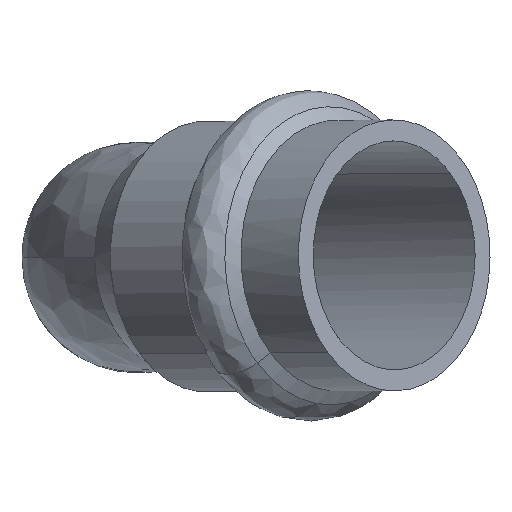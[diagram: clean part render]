
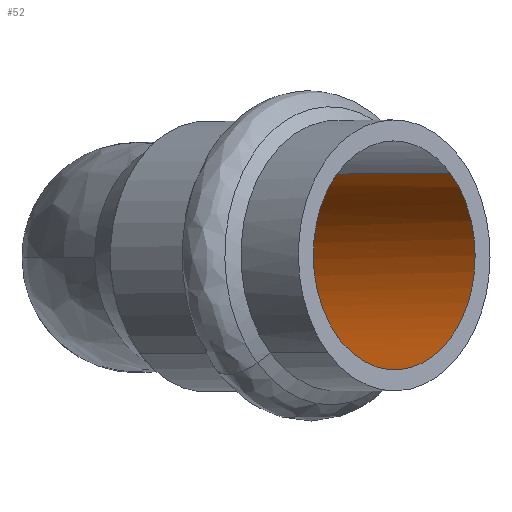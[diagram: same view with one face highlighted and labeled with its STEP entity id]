
A CAD part, top view. The second image highlights one B-rep face of the part: STEP entity #52.
In plain terms, the highlighted cylindrical face has radius 9.505 mm (diameter 19.01 mm), a partial arc.
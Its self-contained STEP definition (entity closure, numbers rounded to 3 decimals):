
#52=ADVANCED_FACE('',(#121),#122,.F.);
#121=FACE_OUTER_BOUND('',#292,.T.);
#122=CYLINDRICAL_SURFACE('',#293,9.505);
#292=EDGE_LOOP('',(#510,#511,#512,#513));
#293=AXIS2_PLACEMENT_3D('',#514,#515,#516);
#510=ORIENTED_EDGE('',*,*,#724,.F.);
#511=ORIENTED_EDGE('',*,*,#725,.F.);
#512=ORIENTED_EDGE('',*,*,#726,.F.);
#513=ORIENTED_EDGE('',*,*,#727,.F.);
#514=CARTESIAN_POINT('',(8.909,0.046,8.91));
#515=DIRECTION('',(-0.707,-0.004,-0.707));
#516=DIRECTION('',(0.49,0.718,-0.494));
#724=EDGE_CURVE('',#821,#822,#823,.T.);
#725=EDGE_CURVE('',#824,#821,#825,.T.);
#726=EDGE_CURVE('',#826,#824,#827,.T.);
#727=EDGE_CURVE('',#822,#826,#828,.T.);
#821=VERTEX_POINT('',#1011);
#822=VERTEX_POINT('',#1012);
#823=LINE('',#1013,#1014);
#824=VERTEX_POINT('',#1015);
#825=(B_SPLINE_CURVE(2,(#1017,#1018,#1019,#1020,#1021),.UNSPECIFIED.,.F.,.F.)B_SPLINE_CURVE_WITH_KNOTS((3,2,3),(-1.571,0.,1.571),.UNSPECIFIED.)RATIONAL_B_SPLINE_CURVE((1.0,0.707,1.0,0.707,1.0))BOUNDED_CURVE()REPRESENTATION_ITEM('')GEOMETRIC_REPRESENTATION_ITEM()CURVE());
#826=VERTEX_POINT('',#1028);
#827=LINE('',#1029,#1030);
#828=(B_SPLINE_CURVE(2,(#1032,#1033,#1034,#1035,#1036),.UNSPECIFIED.,.F.,.F.)B_SPLINE_CURVE_WITH_KNOTS((3,2,3),(-1.571,0.,1.571),.UNSPECIFIED.)RATIONAL_B_SPLINE_CURVE((1.0,0.707,1.0,0.707,1.0))BOUNDED_CURVE()REPRESENTATION_ITEM('')GEOMETRIC_REPRESENTATION_ITEM()CURVE());
#1011=CARTESIAN_POINT('',(10.458,6.856,1.103));
#1012=CARTESIAN_POINT('',(26.014,6.936,16.66));
#1013=CARTESIAN_POINT('',(13.569,6.872,4.214));
#1014=VECTOR('',#1519,1.0);
#1015=CARTESIAN_POINT('',(1.138,-6.796,10.493));
#1017=CARTESIAN_POINT('',(1.138,-6.796,10.493));
#1018=CARTESIAN_POINT('',(5.982,-13.41,5.684));
#1019=CARTESIAN_POINT('',(10.642,-6.585,0.989));
#1020=CARTESIAN_POINT('',(15.302,0.241,-3.706));
#1021=CARTESIAN_POINT('',(10.458,6.856,1.103));
#1028=CARTESIAN_POINT('',(16.695,-6.715,26.05));
#1029=CARTESIAN_POINT('',(4.25,-6.779,13.605));
#1030=VECTOR('',#1520,1.0);
#1032=CARTESIAN_POINT('',(26.014,6.936,16.66));
#1033=CARTESIAN_POINT('',(30.858,0.321,11.85));
#1034=CARTESIAN_POINT('',(26.198,-6.504,16.545));
#1035=CARTESIAN_POINT('',(21.538,-13.33,21.24));
#1036=CARTESIAN_POINT('',(16.695,-6.715,26.05));
#1519=DIRECTION('',(0.707,0.004,0.707));
#1520=DIRECTION('',(-0.707,-0.004,-0.707));
